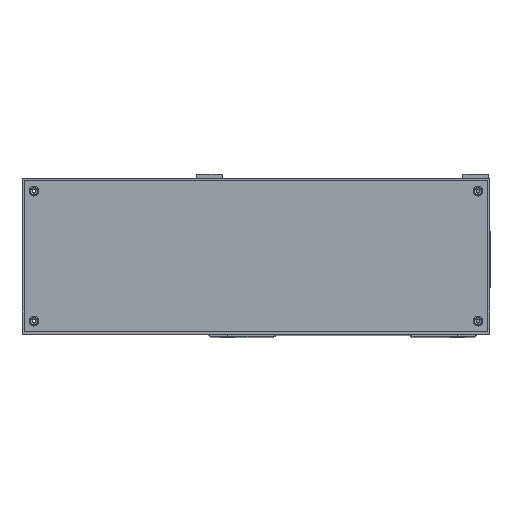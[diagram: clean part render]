
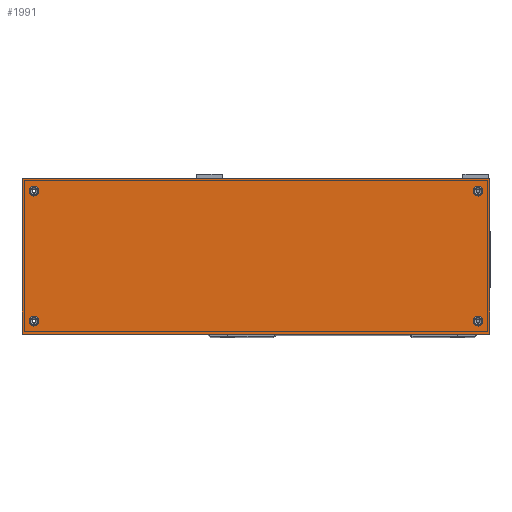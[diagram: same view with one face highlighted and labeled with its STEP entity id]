
A CAD part, top view. The second image highlights one B-rep face of the part: STEP entity #1991.
In plain terms, the highlighted planar face has unit normal (0, 0, 1).
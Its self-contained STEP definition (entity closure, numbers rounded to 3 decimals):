
#1115=FACE_BOUND('',#4026,.T.);
#1116=FACE_BOUND('',#4027,.T.);
#1117=FACE_BOUND('',#4028,.T.);
#1118=FACE_BOUND('',#4029,.T.);
#1119=FACE_BOUND('',#4030,.T.);
#1991=ADVANCED_FACE('',(#1115,#1116,#1117,#1118,#1119),#2572,.F.);
#2572=PLANE('',#15937);
#4026=EDGE_LOOP('',(#7687));
#4027=EDGE_LOOP('',(#7688));
#4028=EDGE_LOOP('',(#7689));
#4029=EDGE_LOOP('',(#7690));
#4030=EDGE_LOOP('',(#7691,#7692,#7693,#7694));
#5066=CIRCLE('',#15933,2.25);
#5067=CIRCLE('',#15934,2.25);
#5068=CIRCLE('',#15935,2.25);
#5069=CIRCLE('',#15936,2.25);
#7687=ORIENTED_EDGE('',*,*,#12170,.F.);
#7688=ORIENTED_EDGE('',*,*,#12171,.F.);
#7689=ORIENTED_EDGE('',*,*,#12172,.F.);
#7690=ORIENTED_EDGE('',*,*,#12173,.F.);
#7691=ORIENTED_EDGE('',*,*,#11162,.F.);
#7692=ORIENTED_EDGE('',*,*,#12174,.F.);
#7693=ORIENTED_EDGE('',*,*,#12175,.F.);
#7694=ORIENTED_EDGE('',*,*,#11124,.F.);
#9619=VERTEX_POINT('',#22121);
#9620=VERTEX_POINT('',#22123);
#9649=VERTEX_POINT('',#22195);
#10323=VERTEX_POINT('',#26285);
#10324=VERTEX_POINT('',#26287);
#10325=VERTEX_POINT('',#26289);
#10326=VERTEX_POINT('',#26291);
#10327=VERTEX_POINT('',#26293);
#11124=EDGE_CURVE('',#9619,#9620,#12935,.T.);
#11162=EDGE_CURVE('',#9649,#9619,#12970,.T.);
#12170=EDGE_CURVE('',#10323,#10323,#5066,.T.);
#12171=EDGE_CURVE('',#10324,#10324,#5067,.T.);
#12172=EDGE_CURVE('',#10325,#10325,#5068,.T.);
#12173=EDGE_CURVE('',#10326,#10326,#5069,.T.);
#12174=EDGE_CURVE('',#10327,#9649,#13529,.T.);
#12175=EDGE_CURVE('',#9620,#10327,#13530,.T.);
#12935=LINE('',#22122,#14003);
#12970=LINE('',#22196,#14038);
#13529=LINE('',#26292,#14597);
#13530=LINE('',#26294,#14598);
#14003=VECTOR('',#17164,1.);
#14038=VECTOR('',#17217,1.);
#14597=VECTOR('',#19398,1.);
#14598=VECTOR('',#19399,1.);
#15933=AXIS2_PLACEMENT_3D('',#26284,#19390,#19391);
#15934=AXIS2_PLACEMENT_3D('',#26286,#19392,#19393);
#15935=AXIS2_PLACEMENT_3D('',#26288,#19394,#19395);
#15936=AXIS2_PLACEMENT_3D('',#26290,#19396,#19397);
#15937=AXIS2_PLACEMENT_3D('',#26295,#19400,#19401);
#17164=DIRECTION('',(-1.,0.,0.));
#17217=DIRECTION('',(0.,-1.,0.));
#19390=DIRECTION('',(0.,0.,1.));
#19391=DIRECTION('',(-1.,0.,0.));
#19392=DIRECTION('',(0.,0.,1.));
#19393=DIRECTION('',(1.,0.,0.));
#19394=DIRECTION('',(0.,0.,1.));
#19395=DIRECTION('',(-1.,0.,0.));
#19396=DIRECTION('',(0.,0.,1.));
#19397=DIRECTION('',(1.,0.,0.));
#19398=DIRECTION('',(1.,0.,0.));
#19399=DIRECTION('',(0.,1.,0.));
#19400=DIRECTION('',(0.,0.,-1.));
#19401=DIRECTION('',(1.,0.,0.));
#22121=CARTESIAN_POINT('',(68.,0.,193.));
#22122=CARTESIAN_POINT('',(68.,0.,193.));
#22123=CARTESIAN_POINT('',(-148.,0.,193.));
#22195=CARTESIAN_POINT('',(68.,72.,193.));
#22196=CARTESIAN_POINT('',(68.,72.,193.));
#26284=CARTESIAN_POINT('',(-142.5,6.,193.));
#26285=CARTESIAN_POINT('',(-144.75,6.,193.));
#26286=CARTESIAN_POINT('',(62.5,6.,193.));
#26287=CARTESIAN_POINT('',(64.75,6.,193.));
#26288=CARTESIAN_POINT('',(62.5,66.,193.));
#26289=CARTESIAN_POINT('',(60.25,66.,193.));
#26290=CARTESIAN_POINT('',(-142.5,66.,193.));
#26291=CARTESIAN_POINT('',(-140.25,66.,193.));
#26292=CARTESIAN_POINT('',(68.,72.,193.));
#26293=CARTESIAN_POINT('',(-148.,72.,193.));
#26294=CARTESIAN_POINT('',(-148.,72.,193.));
#26295=CARTESIAN_POINT('',(-40.,36.,193.));
